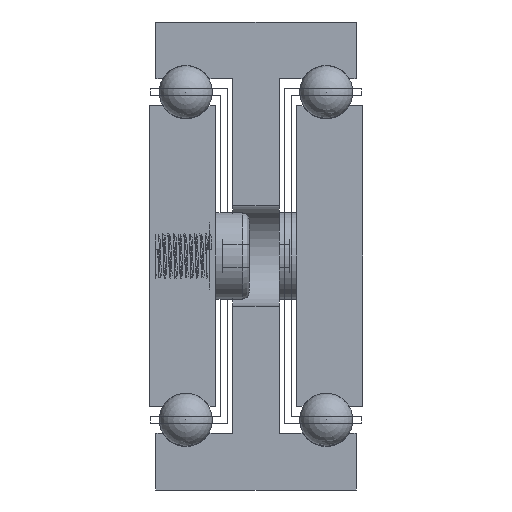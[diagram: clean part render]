
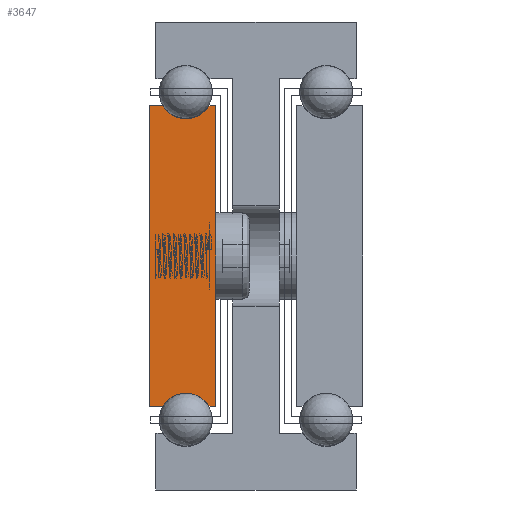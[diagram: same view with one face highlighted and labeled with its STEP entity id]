
A CAD part, front view. The second image highlights one B-rep face of the part: STEP entity #3647.
In plain terms, the highlighted planar face has unit normal (0, -1, 0).
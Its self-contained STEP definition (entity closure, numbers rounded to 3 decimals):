
#463=CIRCLE('',#3942,4.);
#465=CIRCLE('',#3948,4.);
#773=FACE_OUTER_BOUND('',#1005,.T.);
#1005=EDGE_LOOP('',(#2924,#2925,#2926,#2927,#2928,#2929,#2930,#2931));
#1378=LINE('',#5662,#1590);
#1381=LINE('',#5668,#1593);
#1385=LINE('',#5680,#1597);
#1388=LINE('',#5686,#1600);
#1391=LINE('',#5692,#1603);
#1395=LINE('',#5702,#1607);
#1590=VECTOR('',#4550,1.);
#1593=VECTOR('',#4555,1.);
#1597=VECTOR('',#4567,1.);
#1600=VECTOR('',#4572,1.);
#1603=VECTOR('',#4577,1.);
#1607=VECTOR('',#4589,1.);
#1810=VERTEX_POINT('',#5659);
#1811=VERTEX_POINT('',#5661);
#1813=VERTEX_POINT('',#5667);
#1815=VERTEX_POINT('',#5673);
#1817=VERTEX_POINT('',#5679);
#1819=VERTEX_POINT('',#5685);
#1821=VERTEX_POINT('',#5691);
#1823=VERTEX_POINT('',#5697);
#2292=EDGE_CURVE('',#1811,#1810,#1378,.T.);
#2295=EDGE_CURVE('',#1813,#1811,#1381,.T.);
#2298=EDGE_CURVE('',#1815,#1813,#463,.T.);
#2301=EDGE_CURVE('',#1817,#1815,#1385,.T.);
#2304=EDGE_CURVE('',#1819,#1817,#1388,.T.);
#2307=EDGE_CURVE('',#1821,#1819,#1391,.T.);
#2310=EDGE_CURVE('',#1823,#1821,#465,.T.);
#2313=EDGE_CURVE('',#1810,#1823,#1395,.T.);
#2924=ORIENTED_EDGE('',*,*,#2313,.T.);
#2925=ORIENTED_EDGE('',*,*,#2310,.T.);
#2926=ORIENTED_EDGE('',*,*,#2307,.T.);
#2927=ORIENTED_EDGE('',*,*,#2304,.T.);
#2928=ORIENTED_EDGE('',*,*,#2301,.T.);
#2929=ORIENTED_EDGE('',*,*,#2298,.T.);
#2930=ORIENTED_EDGE('',*,*,#2295,.T.);
#2931=ORIENTED_EDGE('',*,*,#2292,.T.);
#3533=PLANE('',#3951);
#3647=ADVANCED_FACE('',(#773),#3533,.T.);
#3942=AXIS2_PLACEMENT_3D('',#5674,#4561,#4562);
#3948=AXIS2_PLACEMENT_3D('',#5698,#4583,#4584);
#3951=AXIS2_PLACEMENT_3D('',#5704,#4592,#4593);
#4550=DIRECTION('',(0.,0.,-1.));
#4555=DIRECTION('',(-1.,0.,0.));
#4561=DIRECTION('center_axis',(0.,1.,0.));
#4562=DIRECTION('ref_axis',(-0.866,0.,-0.5));
#4567=DIRECTION('',(-1.,0.,0.));
#4572=DIRECTION('',(0.,0.,1.));
#4577=DIRECTION('',(1.,0.,0.));
#4583=DIRECTION('center_axis',(0.,1.,0.));
#4584=DIRECTION('ref_axis',(0.866,0.,0.5));
#4589=DIRECTION('',(1.,0.,0.));
#4592=DIRECTION('center_axis',(0.,-1.,0.));
#4593=DIRECTION('ref_axis',(1.,0.,0.));
#5659=CARTESIAN_POINT('',(-2308.38,-636.514,527.5));
#5661=CARTESIAN_POINT('',(-2308.38,-636.514,572.5));
#5662=CARTESIAN_POINT('',(-2308.38,-636.514,527.5));
#5667=CARTESIAN_POINT('',(-2306.344,-636.514,572.5));
#5668=CARTESIAN_POINT('',(-2308.38,-636.514,572.5));
#5673=CARTESIAN_POINT('',(-2299.416,-636.514,572.5));
#5674=CARTESIAN_POINT('Origin',(-2302.88,-636.514,574.5));
#5679=CARTESIAN_POINT('',(-2298.38,-636.514,572.5));
#5680=CARTESIAN_POINT('',(-2299.416,-636.514,572.5));
#5685=CARTESIAN_POINT('',(-2298.38,-636.514,527.5));
#5686=CARTESIAN_POINT('',(-2298.38,-636.514,572.5));
#5691=CARTESIAN_POINT('',(-2299.416,-636.514,527.5));
#5692=CARTESIAN_POINT('',(-2298.38,-636.514,527.5));
#5697=CARTESIAN_POINT('',(-2306.344,-636.514,527.5));
#5698=CARTESIAN_POINT('Origin',(-2302.88,-636.514,525.5));
#5702=CARTESIAN_POINT('',(-2306.344,-636.514,527.5));
#5704=CARTESIAN_POINT('Origin',(-2303.386,-636.514,550.));
